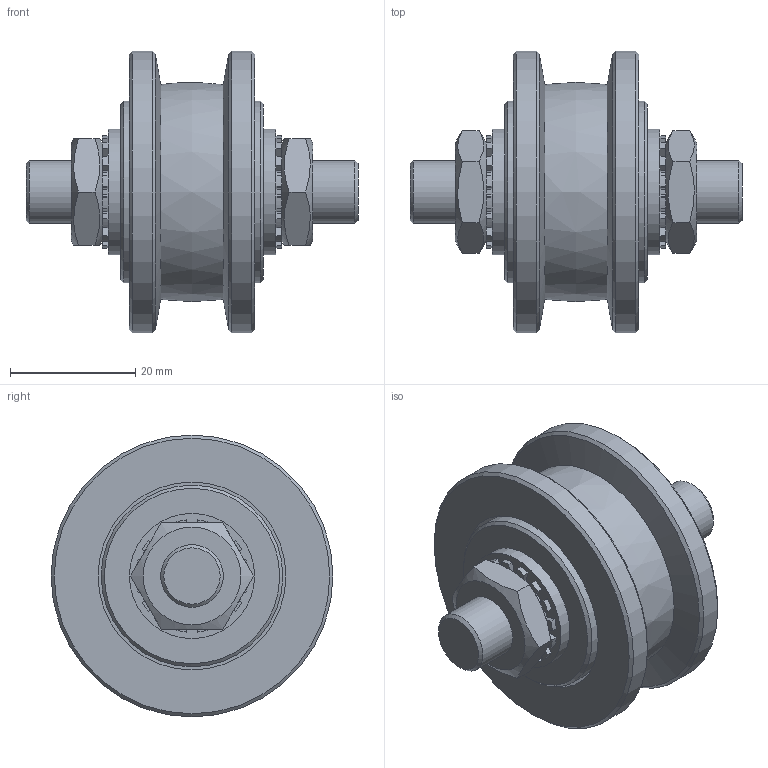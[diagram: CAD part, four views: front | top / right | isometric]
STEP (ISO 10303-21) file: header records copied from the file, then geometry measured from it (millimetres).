
FILE_DESCRIPTION(/* description */ ('Rolle Ø45'),/* implementation_level */ '2;1');
FILE_NAME(/* name */ 'Q:\sge-ma\Produktmanagement-STB\STB\Workspace\stp\010337630.stp',/* time_stamp */ '2016-07-22T07:42:02+02:00',/* author */ ('avschreier'),/* organization */ (''),/* preprocessor_version */ 'ST-DEVELOPER v16.1',/* originating_system */ 'Autodesk Inventor 2016',/* authorisation */ '');
FILE_SCHEMA (('CONFIG_CONTROL_DESIGN'));
Length unit declared in the file: millimetre
Products named in the file (8): 337000193; 337000192; 337000191; 337000306; DIN_EN_ISO_7090-10,5_en; DIN_6798-A_10,5_en; DIN_EN_ISO_4035-M10_en; 010337630
Assembly tree (11 placements, depth 2):
  010337630
    337000193
    337000192  x2
    337000191
    337000306
    DIN_EN_ISO_7090-10,5_en  x2
    DIN_6798-A_10,5_en  x2
    DIN_EN_ISO_4035-M10_en  x2
Bounding box: 53 x 45 x 45 mm (x, y, z)
Volume: 28433.7 mm3; surface area: 18892.9 mm2
Topology: 11 solids, 11 shells, 281 faces, 739 edges, 484 vertices
Faces by surface type: cylinder 150, plane 102, cone 28, bspline 1
Full cylindrical faces by diameter (mm): 8.376 x2, 10 x2, 10.5 x4, 12 x1, 12.1 x2, 20 x2, 22 x2, 23.4 x1, 29 x2, 30 x2, 45 x2
Entity records: 4755 total; most frequent: DIRECTION 864, CARTESIAN_POINT 835, ORIENTED_EDGE 714, EDGE_CURVE 357, AXIS2_PLACEMENT_3D 349, VERTEX_POINT 254, EDGE_LOOP 201, CIRCLE 178
